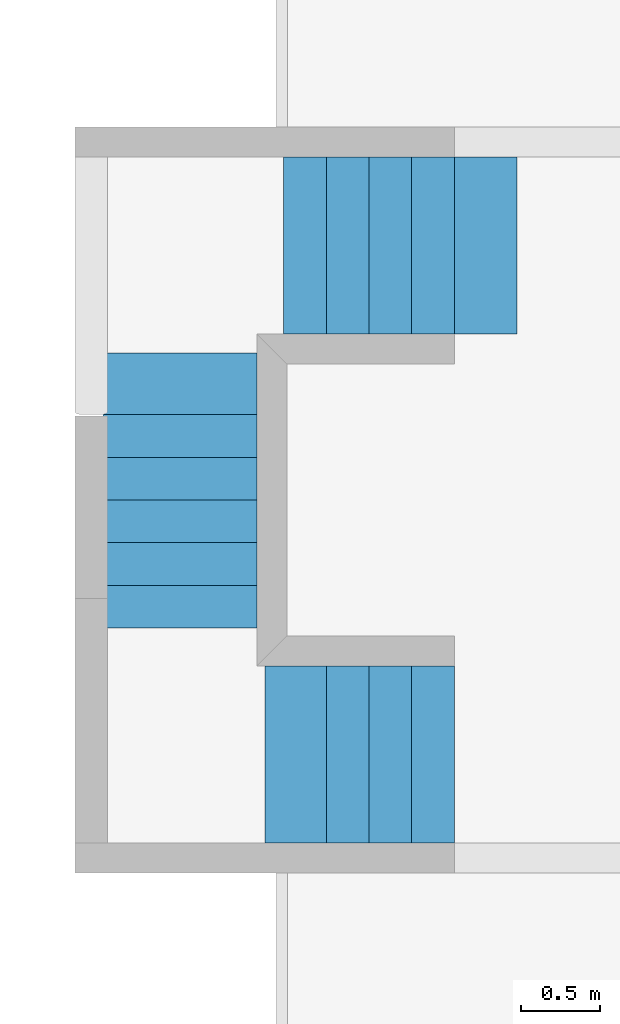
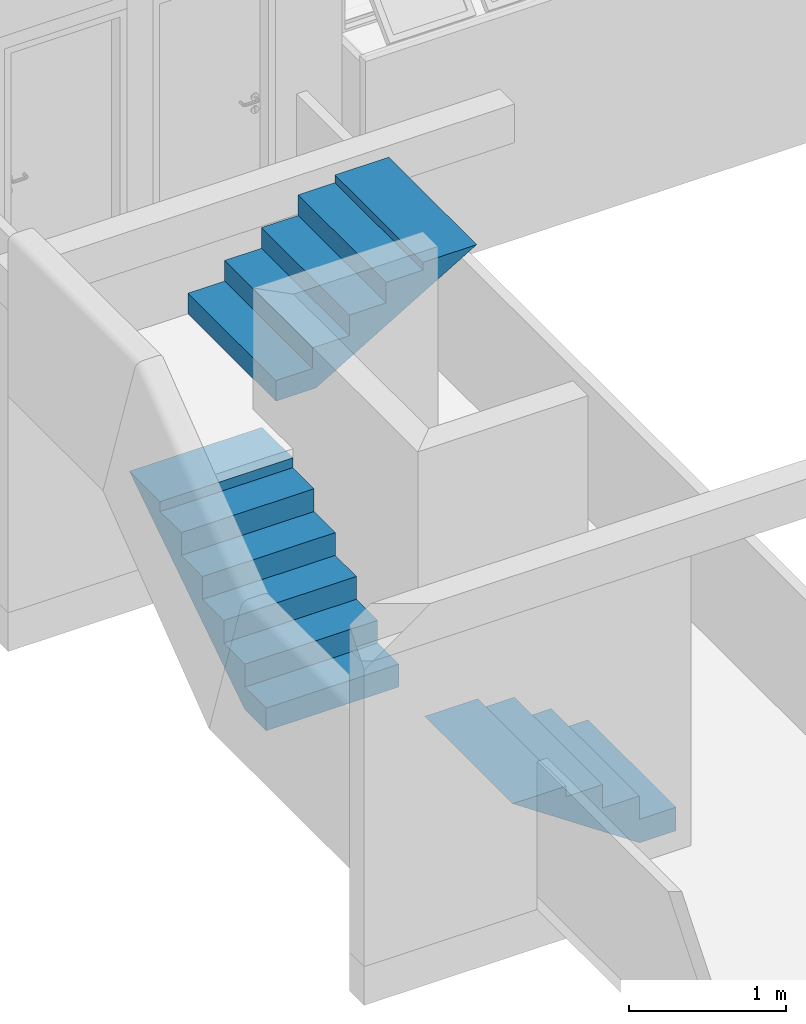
# One storey, part 40 of 40: 3 members, 3 elements without a shape of their own.
"""IFC4 building model written with IfcOpenShell, lengths in millimetres."""

from ifc_helpers import new_model, entity, si_unit, converted_unit, derived_unit, direction, frame, origin_with_axes, place, context, subcontext, project, spatial, polygons, material, type_object, element, aggregate, save


model = new_model("IFC4")

# Units and contexts
model_context = context("Model", 3, precision=0.01, world=origin_with_axes(), true_north=direction((0.0, 1.0)))
body_context = subcontext(model_context, "Body", "Model", "MODEL_VIEW")
ifc_project = project(units=[si_unit("LENGTHUNIT", "METRE", prefix="MILLI"), si_unit("AREAUNIT", "SQUARE_METRE"), si_unit("VOLUMEUNIT", "CUBIC_METRE"), converted_unit("PLANEANGLEUNIT", "DEGREE", entity("IfcPlaneAngleMeasure", 0.0174532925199), si_unit("PLANEANGLEUNIT", "RADIAN"), dimensions=[0, 0, 0, 0, 0, 0, 0]), converted_unit("TIMEUNIT", "Year", entity("IfcTimeMeasure", 31556926.0), si_unit("TIMEUNIT", "SECOND"), dimensions=[0, 0, 1, 0, 0, 0, 0]), si_unit("MASSUNIT", "GRAM", prefix="KILO"), si_unit("THERMODYNAMICTEMPERATUREUNIT", "DEGREE_CELSIUS"), si_unit("LUMINOUSINTENSITYUNIT", "LUMEN"), si_unit("ENERGYUNIT", "JOULE", prefix="MEGA"), derived_unit("THERMALCONDUCTANCEUNIT", [(si_unit("POWERUNIT", "WATT"), 1), (si_unit("LENGTHUNIT", "METRE"), -1), (si_unit("THERMODYNAMICTEMPERATUREUNIT", "KELVIN"), -1)]), derived_unit("SPECIFICHEATCAPACITYUNIT", [(si_unit("ENERGYUNIT", "JOULE"), 1), (si_unit("MASSUNIT", "GRAM", prefix="KILO"), -1), (si_unit("THERMODYNAMICTEMPERATUREUNIT", "KELVIN"), -1)]), derived_unit("MASSDENSITYUNIT", [(si_unit("MASSUNIT", "GRAM", prefix="KILO"), 1), (si_unit("VOLUMEUNIT", "CUBIC_METRE"), -1)])], contexts=[model_context])

# Site, building, storey
site_placement = place(None, origin_with_axes())
site = spatial("IfcSite", under=ifc_project, at=site_placement, Name="Local", CompositionType="ELEMENT")
building_placement = place(site_placement, origin_with_axes())
building = spatial("IfcBuilding", under=site, at=building_placement, Name="Construção", CompositionType="ELEMENT")
storey_placement = place(building_placement, origin_with_axes())
storey = spatial("IfcBuildingStorey", under=building, at=storey_placement, Name="Primeiro Pavimento", CompositionType="ELEMENT", Elevation=0.0)

# Stair, member
stair_type = type_object("IfcStairType", Name="Tipo de Escada", PredefinedType="NOTDEFINED")
stair_1_placement = place(storey_placement, frame((6210.0, 14130.0, 1710.57075871), z_axis=(0.0, 0.0, 1.0), x_axis=(-1.0, 0.0, 0.0)))
stair_1 = element("IfcStair", 1, at=stair_1_placement, inside=storey, type_object=stair_type, Name="CIRC1-ESCADA-002", PredefinedType="NOTDEFINED")
ifc_material = material(Name="Concreto - Estrutural")
member_type = type_object("IfcMemberType", Name="IfcMember", PredefinedType="NOTDEFINED")
member_1_placement = place(stair_1_placement, origin_with_axes())
member_1 = element("IfcMember", 2, at=member_1_placement, type_object=member_type, material=ifc_material, Name="CIRC1-Lance - 005", PredefinedType="NOTDEFINED", context=body_context, shape_type="Tessellation", body=[
    polygons([(-1170.0, 0.0, 518.78088097), (-1170.0, -1120.0, 518.78088097), (-1260.0, -1120.0, 572.098333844), (-1260.0, 0.0, 572.098333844), (-1080.0, 0.0, 465.463428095), (-1080.0, -1120.0, 465.463428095), (-1475.49625339, -1120.0, 699.761793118), (-1350.0, -1120.0, 625.415786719), (-990.0, -1120.0, 412.145975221), (-900.0, -1120.0, 358.828522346), (-810.0, -1120.0, 305.511069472), (-720.0, -1120.0, 252.193616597), (-630.0, -1120.0, 198.876163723), (-540.0, -1120.0, 145.558710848), (-450.0, -1120.0, 92.2412579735), (-360.0, -1120.0, 38.923805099), (-294.296515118, -1120.0, 0.0), (0.0, -1120.0, 0.0), (0.0, -1120.0, 159.952358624), (-270.0, -1120.0, 159.952358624), (-270.0, -1120.0, 319.904717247), (-540.0, -1120.0, 319.904717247), (-540.0, -1120.0, 479.857075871), (-810.0, -1120.0, 479.857075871), (-810.0, -1120.0, 639.809434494), (-1080.0, -1120.0, 639.809434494), (-1080.0, -1120.0, 699.761793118), (-1475.49625339, 0.0, 699.761793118), (-1350.0, 0.0, 625.415786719), (-1080.0, 0.0, 699.761793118), (-1080.0, 0.0, 639.809434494), (-810.0, 0.0, 639.809434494), (-810.0, 0.0, 479.857075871), (-540.0, 0.0, 479.857075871), (-540.0, 0.0, 319.904717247), (-270.0, 0.0, 319.904717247), (-270.0, 0.0, 159.952358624), (0.0, 0.0, 159.952358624), (0.0, 0.0, 0.0), (-294.296515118, 0.0, 0.0), (-360.0, 0.0, 38.923805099), (-450.0, 0.0, 92.2412579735), (-540.0, 0.0, 145.558710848), (-630.0, 0.0, 198.876163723), (-720.0, 0.0, 252.193616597), (-810.0, 0.0, 305.511069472), (-900.0, 0.0, 358.828522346), (-990.0, 0.0, 412.145975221)], [[[1, 2, 3, 4]], [[5, 6, 2, 1]], [[7, 8, 3, 2, 6, 9, 10, 11, 12, 13, 14, 15, 16, 17, 18, 19, 20, 21, 22, 23, 24, 25, 26, 27]], [[7, 28, 29, 4, 3, 8]], [[28, 30, 31, 32, 33, 34, 35, 36, 37, 38, 39, 40, 41, 42, 43, 44, 45, 46, 47, 48, 5, 1, 4, 29]], [[48, 9, 6, 5]], [[47, 10, 9, 48]], [[46, 11, 10, 47]], [[45, 12, 11, 46]], [[44, 13, 12, 45]], [[43, 14, 13, 44]], [[42, 15, 14, 43]], [[41, 16, 15, 42]], [[40, 17, 16, 41]], [[40, 39, 18, 17]], [[38, 19, 18, 39]], [[37, 20, 19, 38]], [[20, 37, 36, 21]], [[35, 22, 21, 36]], [[22, 35, 34, 23]], [[33, 24, 23, 34]], [[24, 33, 32, 25]], [[31, 26, 25, 32]], [[27, 26, 31, 30]], [[7, 27, 30, 28]]], closed=True),
])
aggregate(stair_1, [member_1])

stair_2_placement = place(storey_placement, frame((6040.0, 12000.0, 680.0), z_axis=(0.0, 0.0, 1.0), x_axis=(1.0, 0.0, 0.0)))
stair_2 = element("IfcStair", 3, at=stair_2_placement, inside=storey, type_object=stair_type, Name="CIRC1-ESCADA-000", PredefinedType="NOTDEFINED")
member_2_placement = place(stair_2_placement, origin_with_axes())
member_2 = element("IfcMember", 4, at=member_2_placement, type_object=member_type, material=ifc_material, Name="CIRC1-Lance - 007", PredefinedType="NOTDEFINED", context=body_context, shape_type="Tessellation", body=[
    polygons([(-975.0, 1620.0, 883.808965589), (-975.0, 1350.0, 883.808965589), (0.0, 1350.0, 883.808965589), (0.0, 1620.0, 883.808965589), (-975.0, 1620.0, 960.570758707), (-975.0, 2011.10758728, 960.570758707), (-975.0, 1620.0, 704.523060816), (-975.0, 1530.0, 645.60246311), (-975.0, 1440.0, 586.681865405), (-975.0, 1350.0, 527.761267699), (-975.0, 1260.0, 468.840669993), (-975.0, 1170.0, 409.920072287), (-975.0, 1080.0, 350.999474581), (-975.0, 990.0, 292.078876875), (-975.0, 900.0, 233.158279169), (-975.0, 810.0, 174.237681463), (-975.0, 720.0, 115.317083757), (-975.0, 630.0, 56.3964860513), (-975.0, 543.855528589, 0.0), (-975.0, 270.0, 0.0), (-975.0, 270.0, 176.761793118), (-975.0, 540.0, 176.761793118), (-975.0, 540.0, 353.523586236), (-975.0, 810.0, 353.523586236), (-975.0, 810.0, 530.285379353), (-975.0, 1080.0, 530.285379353), (-975.0, 1080.0, 707.047172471), (-975.0, 1350.0, 707.047172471), (0.0, 1350.0, 707.047172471), (0.0, 1620.0, 704.523060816), (0.0, 2011.10758728, 960.570758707), (0.0, 1620.0, 960.570758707), (0.0, 1080.0, 707.047172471), (0.0, 1080.0, 530.285379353), (0.0, 810.0, 530.285379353), (0.0, 810.0, 353.523586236), (0.0, 540.0, 353.523586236), (0.0, 540.0, 176.761793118), (0.0, 270.0, 176.761793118), (0.0, 270.0, 0.0), (0.0, 543.855528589, 0.0), (0.0, 630.0, 56.3964860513), (0.0, 720.0, 115.317083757), (0.0, 810.0, 174.237681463), (0.0, 900.0, 233.158279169), (0.0, 990.0, 292.078876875), (0.0, 1080.0, 350.999474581), (0.0, 1170.0, 409.920072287), (0.0, 1260.0, 468.840669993), (0.0, 1350.0, 527.761267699), (0.0, 1440.0, 586.681865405), (0.0, 1530.0, 645.60246311)], [[[1, 2, 3, 4]], [[1, 5, 6, 7, 8, 9, 10, 11, 12, 13, 14, 15, 16, 17, 18, 19, 20, 21, 22, 23, 24, 25, 26, 27, 28, 2]], [[2, 28, 29, 3]], [[30, 31, 32, 4, 3, 29, 33, 34, 35, 36, 37, 38, 39, 40, 41, 42, 43, 44, 45, 46, 47, 48, 49, 50, 51, 52]], [[4, 32, 5, 1]], [[5, 32, 31, 6]], [[7, 6, 31, 30, 52, 8]], [[9, 8, 52, 51]], [[10, 9, 51, 50]], [[11, 10, 50, 49]], [[12, 11, 49, 48]], [[13, 12, 48, 47]], [[14, 13, 47, 46]], [[15, 14, 46, 45]], [[16, 15, 45, 44]], [[17, 16, 44, 43]], [[18, 17, 43, 42]], [[19, 18, 42, 41]], [[20, 19, 41, 40]], [[21, 20, 40, 39]], [[39, 38, 22, 21]], [[23, 22, 38, 37]], [[37, 36, 24, 23]], [[25, 24, 36, 35]], [[35, 34, 26, 25]], [[27, 26, 34, 33]], [[33, 29, 28, 27]]], closed=True),
])
aggregate(stair_2, [member_2])

stair_3_placement = place(storey_placement, frame((7290.0, 10910.0, -50.0), z_axis=(0.0, 0.0, 1.0), x_axis=(1.0, 0.0, 0.0)))
stair_3 = element("IfcStair", 5, at=stair_3_placement, inside=storey, type_object=stair_type, Name="CIRC1-ESCADA-001", PredefinedType="NOTDEFINED")
member_3_placement = place(stair_3_placement, origin_with_axes())
member_3 = element("IfcMember", 6, at=member_3_placement, type_object=member_type, material=ifc_material, Name="CIRC1-Lance - 005", PredefinedType="NOTDEFINED", context=body_context, shape_type="Tessellation", body=[
    polygons([(-810.0, 1120.0, 547.5), (-810.0, 0.0, 547.5), (-540.0, 0.0, 547.5), (-540.0, 1120.0, 547.5), (-810.0, 1120.0, 630.0), (-810.0, 0.0, 630.0), (-810.0, 0.0, 366.448331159), (-720.0, 0.0, 305.614997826), (-630.0, 0.0, 244.781664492), (-540.0, 0.0, 183.948331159), (-450.0, 0.0, 123.114997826), (-360.0, 0.0, 62.2816644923), (-270.0, 0.0, 1.44833115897), (-267.857263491, 0.0, 0.0), (0.0, 0.0, 0.0), (0.0, 0.0, 182.5), (-270.0, 0.0, 182.5), (-270.0, 0.0, 365.0), (-540.0, 0.0, 365.0), (-1199.91205801, 0.0, 630.0), (-540.0, 1120.0, 365.0), (-270.0, 1120.0, 365.0), (-270.0, 1120.0, 182.5), (0.0, 1120.0, 182.5), (0.0, 1120.0, 0.0), (-267.857263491, 1120.0, 0.0), (-270.0, 1120.0, 1.44833115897), (-360.0, 1120.0, 62.2816644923), (-450.0, 1120.0, 123.114997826), (-540.0, 1120.0, 183.948331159), (-630.0, 1120.0, 244.781664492), (-720.0, 1120.0, 305.614997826), (-810.0, 1120.0, 366.448331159), (-1199.91205801, 1120.0, 630.0)], [[[1, 2, 3, 4]], [[2, 1, 5, 6]], [[7, 8, 9, 10, 11, 12, 13, 14, 15, 16, 17, 18, 19, 3, 2, 6, 20]], [[4, 3, 19, 21]], [[1, 4, 21, 22, 23, 24, 25, 26, 27, 28, 29, 30, 31, 32, 33, 34, 5]], [[5, 34, 20, 6]], [[33, 32, 8, 7, 20, 34]], [[8, 32, 31, 9]], [[9, 31, 30, 10]], [[10, 30, 29, 11]], [[11, 29, 28, 12]], [[12, 28, 27, 13]], [[13, 27, 26, 14]], [[26, 25, 15, 14]], [[15, 25, 24, 16]], [[16, 24, 23, 17]], [[22, 18, 17, 23]], [[18, 22, 21, 19]]], closed=True),
])
aggregate(stair_3, [member_3])

save(model, "model.ifc")
